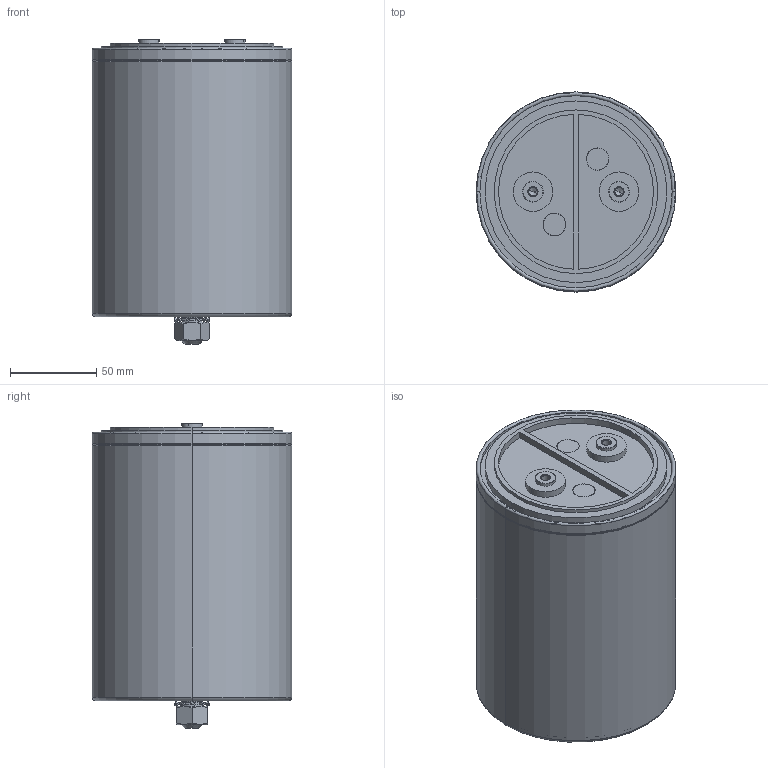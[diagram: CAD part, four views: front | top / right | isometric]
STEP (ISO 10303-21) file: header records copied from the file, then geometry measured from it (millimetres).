
FILE_DESCRIPTION (( 'STEP AP203' ), '1' );
FILE_NAME ('B25620Bx_116x155_161.STEP', '2021-07-01T04:01:44', ( '' ), ( '' ), 'SwSTEP 2.0', 'SolidWorks 2017', '' );
FILE_SCHEMA (( 'CONFIG_CONTROL_DESIGN' ));
Length unit declared in the file: millimetre
Products named in the file (1): B25620Bx_116x155_161
Bounding box: 116 x 116 x 177 mm (x, y, z)
Volume: 121768.2 mm3; surface area: 165284.7 mm2
Topology: 2 solids, 15 shells, 283 faces, 620 edges, 392 vertices
Faces by surface type: plane 113, cylinder 80, bspline 50, cone 22, torus 18
Entity records: 8809 total; most frequent: CARTESIAN_POINT 2696, ORIENTED_EDGE 1232, DIRECTION 1210, EDGE_CURVE 616, AXIS2_PLACEMENT_3D 456, VERTEX_POINT 392, EDGE_LOOP 314, VECTOR 298
